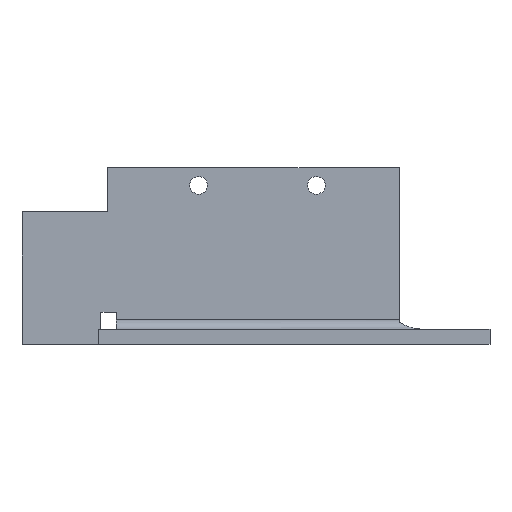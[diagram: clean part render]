
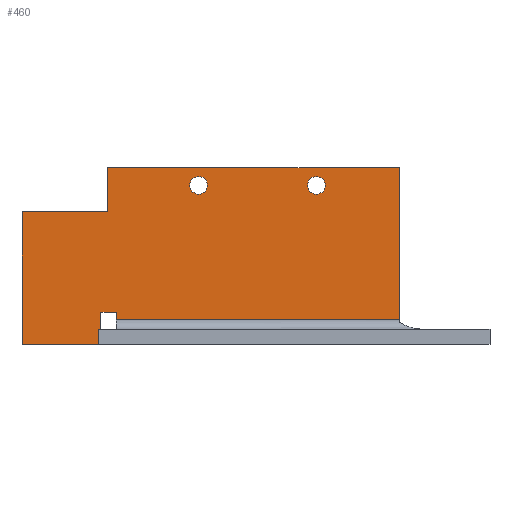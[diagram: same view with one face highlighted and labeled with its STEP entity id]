
A CAD part, front view. The second image highlights one B-rep face of the part: STEP entity #460.
In plain terms, the highlighted planar face has unit normal (0, -1, 0).
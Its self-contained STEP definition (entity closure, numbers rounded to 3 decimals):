
#22=FACE_BOUND('',#90,.T.);
#23=FACE_BOUND('',#91,.T.);
#34=CIRCLE('',#486,1.5);
#36=CIRCLE('',#489,1.5);
#59=FACE_OUTER_BOUND('',#89,.T.);
#89=EDGE_LOOP('',(#347,#348,#349,#350,#351,#352,#353,#354,#355,#356));
#90=EDGE_LOOP('',(#357));
#91=EDGE_LOOP('',(#358));
#125=LINE('',#723,#172);
#131=LINE('',#740,#178);
#132=LINE('',#742,#179);
#133=LINE('',#744,#180);
#134=LINE('',#746,#181);
#135=LINE('',#748,#182);
#136=LINE('',#750,#183);
#137=LINE('',#752,#184);
#138=LINE('',#754,#185);
#139=LINE('',#755,#186);
#172=VECTOR('',#559,25.835);
#178=VECTOR('',#579,49.586);
#179=VECTOR('',#580,7.5);
#180=VECTOR('',#581,14.5);
#181=VECTOR('',#582,22.5);
#182=VECTOR('',#583,13.41);
#183=VECTOR('',#584,5.46);
#184=VECTOR('',#585,2.59);
#185=VECTOR('',#586,1.295);
#186=VECTOR('',#587,48.086);
#216=VERTEX_POINT('',#664);
#218=VERTEX_POINT('',#669);
#226=VERTEX_POINT('',#717);
#228=VERTEX_POINT('',#721);
#232=VERTEX_POINT('',#739);
#233=VERTEX_POINT('',#741);
#234=VERTEX_POINT('',#743);
#235=VERTEX_POINT('',#745);
#236=VERTEX_POINT('',#747);
#237=VERTEX_POINT('',#749);
#238=VERTEX_POINT('',#751);
#239=VERTEX_POINT('',#753);
#258=EDGE_CURVE('',#216,#216,#34,.T.);
#260=EDGE_CURVE('',#218,#218,#36,.T.);
#270=EDGE_CURVE('',#226,#228,#125,.T.);
#279=EDGE_CURVE('',#232,#228,#131,.T.);
#280=EDGE_CURVE('',#232,#233,#132,.T.);
#281=EDGE_CURVE('',#233,#234,#133,.T.);
#282=EDGE_CURVE('',#235,#234,#134,.T.);
#283=EDGE_CURVE('',#236,#235,#135,.T.);
#284=EDGE_CURVE('',#236,#237,#136,.T.);
#285=EDGE_CURVE('',#237,#238,#137,.T.);
#286=EDGE_CURVE('',#238,#239,#138,.T.);
#287=EDGE_CURVE('',#239,#226,#139,.T.);
#347=ORIENTED_EDGE('',*,*,#270,.T.);
#348=ORIENTED_EDGE('',*,*,#279,.F.);
#349=ORIENTED_EDGE('',*,*,#280,.T.);
#350=ORIENTED_EDGE('',*,*,#281,.T.);
#351=ORIENTED_EDGE('',*,*,#282,.F.);
#352=ORIENTED_EDGE('',*,*,#283,.F.);
#353=ORIENTED_EDGE('',*,*,#284,.T.);
#354=ORIENTED_EDGE('',*,*,#285,.T.);
#355=ORIENTED_EDGE('',*,*,#286,.T.);
#356=ORIENTED_EDGE('',*,*,#287,.T.);
#357=ORIENTED_EDGE('',*,*,#258,.T.);
#358=ORIENTED_EDGE('',*,*,#260,.T.);
#435=PLANE('',#498);
#460=ADVANCED_FACE('',(#59,#22,#23),#435,.F.);
#486=AXIS2_PLACEMENT_3D('',#665,#541,#542);
#489=AXIS2_PLACEMENT_3D('',#670,#547,#548);
#498=AXIS2_PLACEMENT_3D('',#738,#577,#578);
#541=DIRECTION('center_axis',(0.,1.,0.));
#542=DIRECTION('ref_axis',(1.,0.,0.));
#547=DIRECTION('center_axis',(0.,1.,0.));
#548=DIRECTION('ref_axis',(1.,0.,0.));
#559=DIRECTION('',(0.,0.,1.));
#577=DIRECTION('center_axis',(0.,1.,0.));
#578=DIRECTION('ref_axis',(-1.,0.,0.));
#579=DIRECTION('',(1.,0.,0.));
#580=DIRECTION('',(0.,0.,-1.));
#581=DIRECTION('',(-1.,0.,0.));
#582=DIRECTION('',(0.,0.,1.));
#583=DIRECTION('',(-1.,0.,0.));
#584=DIRECTION('',(0.,0.,1.));
#585=DIRECTION('',(1.,0.,0.));
#586=DIRECTION('',(0.,0.,-1.));
#587=DIRECTION('',(1.,0.,0.));
#664=CARTESIAN_POINT('',(9.,0.,12.));
#665=CARTESIAN_POINT('Origin',(7.5,0.,12.));
#669=CARTESIAN_POINT('',(-11.,0.,12.));
#670=CARTESIAN_POINT('Origin',(-12.5,0.,12.));
#717=CARTESIAN_POINT('',(21.586,0.,-10.835));
#721=CARTESIAN_POINT('',(21.586,0.,15.));
#723=CARTESIAN_POINT('',(21.586,0.,-2.31));
#738=CARTESIAN_POINT('Origin',(6.215,0.,6.215));
#739=CARTESIAN_POINT('',(-28.,0.,15.));
#740=CARTESIAN_POINT('',(-42.5,0.,15.));
#741=CARTESIAN_POINT('',(-28.,0.,7.5));
#742=CARTESIAN_POINT('',(-28.,0.,6.858));
#743=CARTESIAN_POINT('',(-42.5,0.,7.5));
#744=CARTESIAN_POINT('',(-18.142,0.,7.5));
#745=CARTESIAN_POINT('',(-42.5,0.,-15.));
#746=CARTESIAN_POINT('',(-42.5,0.,-15.));
#747=CARTESIAN_POINT('',(-29.09,0.,-15.));
#748=CARTESIAN_POINT('',(42.5,0.,-15.));
#749=CARTESIAN_POINT('',(-29.09,0.,-9.54));
#750=CARTESIAN_POINT('',(-29.09,0.,-1.662));
#751=CARTESIAN_POINT('',(-26.5,0.,-9.54));
#752=CARTESIAN_POINT('',(-10.142,0.,-9.54));
#753=CARTESIAN_POINT('',(-26.5,0.,-10.835));
#754=CARTESIAN_POINT('',(-26.5,0.,-4.392));
#755=CARTESIAN_POINT('',(24.358,0.,-10.835));
